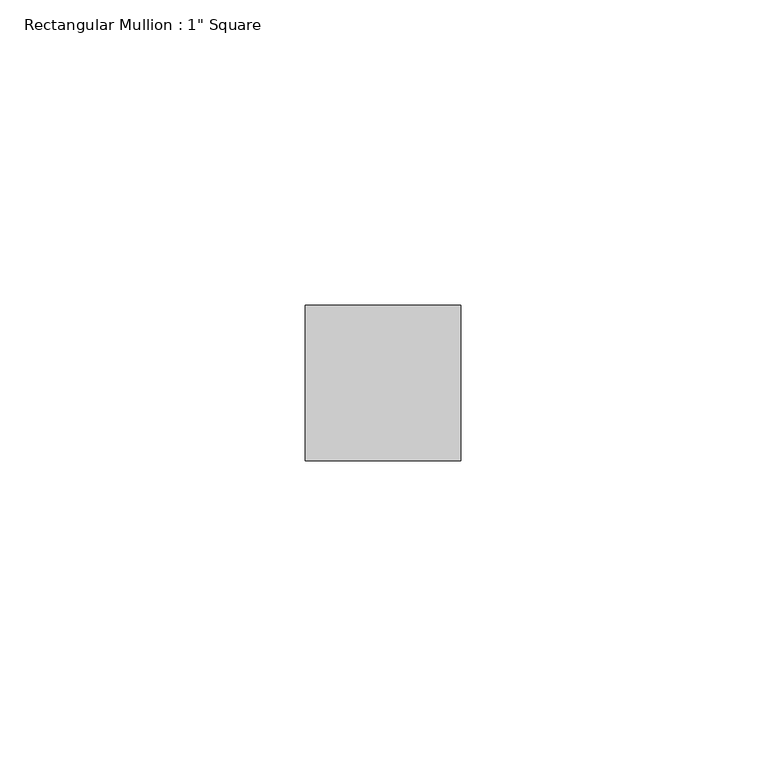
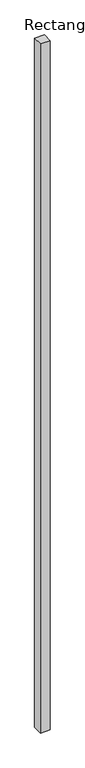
"""IFC4 building model written with IfcOpenShell, lengths in millimetres: member geometry."""

from ifc_helpers import new_model, si_unit, frame, origin, place, context, project, spatial, polyline, outline, extrude, source, transform, mapped, element, save


def member_5c7fdabc(model_context):
    return source(origin(), model_context, "Body", "SweptSolid", [
        extrude(outline(polyline([(12.7, 12.7), (12.7, -12.7), (-12.7, -12.7), (-12.7, 12.7), (12.7, 12.7)])), frame((0.0, 0.0, -1885.1356935), z_axis=(0.0, 0.0, 1.0), x_axis=(1.0, 0.0, 0.0)), (0.0, 0.0, 1.0), 1885.1356935),
    ])


if __name__ == "__main__":
    model = new_model("IFC4")
    model_context = context("Model", 3, world=origin())
    ifc_project = project(units=[si_unit("LENGTHUNIT", "METRE", prefix="MILLI")], contexts=[model_context])
    site = spatial("IfcSite", under=ifc_project)
    building = spatial("IfcBuilding", under=site)
    placement = place(None, origin())
    member_shape = member_5c7fdabc(model_context)
    element("IfcMember", 1, ObjectType="Rectangular Mullion : 1\" Square", at=placement, inside=building, context=model_context, shape_type="MappedRepresentation", body=[
        mapped(member_shape, transform((0.0, 0.0, 0.0), x_axis=(1.0, 0.0, 0.0), y_axis=(0.0, 1.0, 0.0), z_axis=(0.0, 0.0, 1.0))),
    ])
    save(model, "model.ifc")
